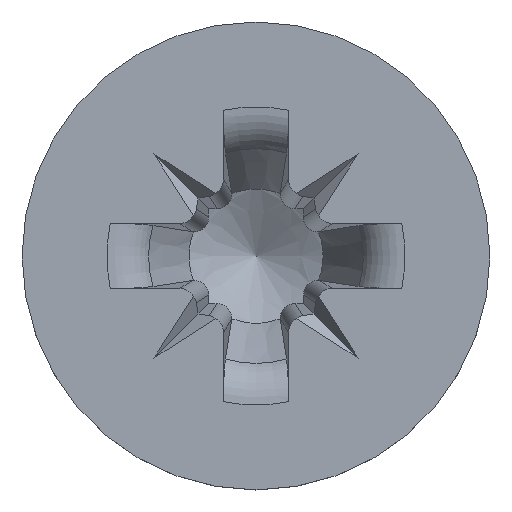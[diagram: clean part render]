
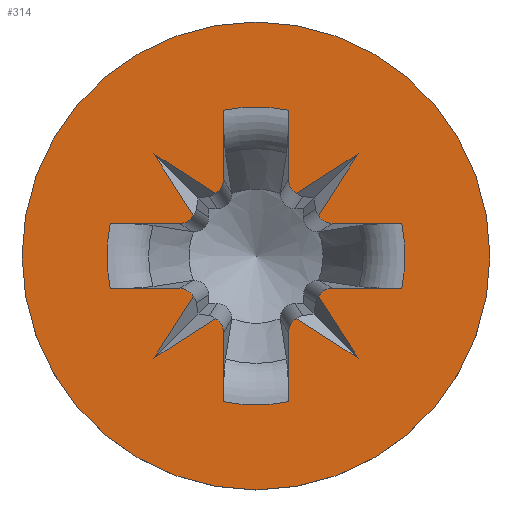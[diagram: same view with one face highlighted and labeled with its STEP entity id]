
A CAD part, top view. The second image highlights one B-rep face of the part: STEP entity #314.
In plain terms, the highlighted planar face has unit normal (0, 0, 1).
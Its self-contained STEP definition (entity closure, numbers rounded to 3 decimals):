
#84=PLANE('',#1531);
#110=ELLIPSE('',#1520,0.101,0.1);
#111=ELLIPSE('',#1521,0.101,0.1);
#112=ELLIPSE('',#1523,0.101,0.1);
#113=ELLIPSE('',#1524,0.101,0.1);
#114=ELLIPSE('',#1526,0.101,0.1);
#115=ELLIPSE('',#1527,0.101,0.1);
#116=ELLIPSE('',#1529,0.101,0.1);
#117=ELLIPSE('',#1530,0.101,0.1);
#126=LINE('',#2150,#209);
#127=LINE('',#2155,#210);
#128=LINE('',#2159,#211);
#129=LINE('',#2161,#212);
#130=LINE('',#2165,#213);
#131=LINE('',#2169,#214);
#132=LINE('',#2173,#215);
#133=LINE('',#2175,#216);
#134=LINE('',#2179,#217);
#135=LINE('',#2183,#218);
#136=LINE('',#2187,#219);
#137=LINE('',#2189,#220);
#138=LINE('',#2193,#221);
#139=LINE('',#2197,#222);
#140=LINE('',#2201,#223);
#141=LINE('',#2203,#224);
#209=VECTOR('',#1615,1.);
#210=VECTOR('',#1618,1.);
#211=VECTOR('',#1621,1.);
#212=VECTOR('',#1622,1.);
#213=VECTOR('',#1625,1.);
#214=VECTOR('',#1628,1.);
#215=VECTOR('',#1631,1.);
#216=VECTOR('',#1632,1.);
#217=VECTOR('',#1635,1.);
#218=VECTOR('',#1638,1.);
#219=VECTOR('',#1641,1.);
#220=VECTOR('',#1642,1.);
#221=VECTOR('',#1645,1.);
#222=VECTOR('',#1648,1.);
#223=VECTOR('',#1651,1.);
#224=VECTOR('',#1652,1.);
#300=FACE_BOUND('',#494,.T.);
#301=FACE_BOUND('',#495,.T.);
#314=ADVANCED_FACE('',(#300,#301),#84,.F.);
#494=EDGE_LOOP('',(#621));
#495=EDGE_LOOP('',(#622,#623,#624,#625,#626,#627,#628,#629,#630,#631,#632,
#633,#634,#635,#636,#637,#638,#639,#640,#641,#642,#643,#644,#645,#646,#647,
#648,#649));
#589=CIRCLE('',#1518,1.5);
#590=CIRCLE('',#1519,0.957);
#591=CIRCLE('',#1522,0.957);
#592=CIRCLE('',#1525,0.957);
#593=CIRCLE('',#1528,0.957);
#621=ORIENTED_EDGE('',*,*,#1203,.T.);
#622=ORIENTED_EDGE('',*,*,#1204,.F.);
#623=ORIENTED_EDGE('',*,*,#1205,.T.);
#624=ORIENTED_EDGE('',*,*,#1206,.F.);
#625=ORIENTED_EDGE('',*,*,#1207,.F.);
#626=ORIENTED_EDGE('',*,*,#1208,.T.);
#627=ORIENTED_EDGE('',*,*,#1209,.T.);
#628=ORIENTED_EDGE('',*,*,#1210,.F.);
#629=ORIENTED_EDGE('',*,*,#1211,.F.);
#630=ORIENTED_EDGE('',*,*,#1212,.T.);
#631=ORIENTED_EDGE('',*,*,#1213,.F.);
#632=ORIENTED_EDGE('',*,*,#1214,.F.);
#633=ORIENTED_EDGE('',*,*,#1215,.T.);
#634=ORIENTED_EDGE('',*,*,#1216,.T.);
#635=ORIENTED_EDGE('',*,*,#1217,.F.);
#636=ORIENTED_EDGE('',*,*,#1218,.F.);
#637=ORIENTED_EDGE('',*,*,#1219,.T.);
#638=ORIENTED_EDGE('',*,*,#1220,.F.);
#639=ORIENTED_EDGE('',*,*,#1221,.F.);
#640=ORIENTED_EDGE('',*,*,#1222,.T.);
#641=ORIENTED_EDGE('',*,*,#1223,.T.);
#642=ORIENTED_EDGE('',*,*,#1224,.F.);
#643=ORIENTED_EDGE('',*,*,#1225,.F.);
#644=ORIENTED_EDGE('',*,*,#1226,.T.);
#645=ORIENTED_EDGE('',*,*,#1227,.F.);
#646=ORIENTED_EDGE('',*,*,#1228,.F.);
#647=ORIENTED_EDGE('',*,*,#1229,.T.);
#648=ORIENTED_EDGE('',*,*,#1230,.T.);
#649=ORIENTED_EDGE('',*,*,#1231,.F.);
#1061=VERTEX_POINT('',#2149);
#1062=VERTEX_POINT('',#2151);
#1063=VERTEX_POINT('',#2152);
#1064=VERTEX_POINT('',#2154);
#1065=VERTEX_POINT('',#2156);
#1066=VERTEX_POINT('',#2158);
#1067=VERTEX_POINT('',#2160);
#1068=VERTEX_POINT('',#2162);
#1069=VERTEX_POINT('',#2164);
#1070=VERTEX_POINT('',#2166);
#1071=VERTEX_POINT('',#2168);
#1072=VERTEX_POINT('',#2170);
#1073=VERTEX_POINT('',#2172);
#1074=VERTEX_POINT('',#2174);
#1075=VERTEX_POINT('',#2176);
#1076=VERTEX_POINT('',#2178);
#1077=VERTEX_POINT('',#2180);
#1078=VERTEX_POINT('',#2182);
#1079=VERTEX_POINT('',#2184);
#1080=VERTEX_POINT('',#2186);
#1081=VERTEX_POINT('',#2188);
#1082=VERTEX_POINT('',#2190);
#1083=VERTEX_POINT('',#2192);
#1084=VERTEX_POINT('',#2194);
#1085=VERTEX_POINT('',#2196);
#1086=VERTEX_POINT('',#2198);
#1087=VERTEX_POINT('',#2200);
#1088=VERTEX_POINT('',#2202);
#1089=VERTEX_POINT('',#2204);
#1203=EDGE_CURVE('',#1061,#1061,#589,.T.);
#1204=EDGE_CURVE('',#1062,#1063,#126,.T.);
#1205=EDGE_CURVE('',#1062,#1064,#590,.T.);
#1206=EDGE_CURVE('',#1065,#1064,#127,.T.);
#1207=EDGE_CURVE('',#1066,#1065,#110,.T.);
#1208=EDGE_CURVE('',#1066,#1067,#128,.T.);
#1209=EDGE_CURVE('',#1067,#1068,#129,.T.);
#1210=EDGE_CURVE('',#1069,#1068,#111,.T.);
#1211=EDGE_CURVE('',#1070,#1069,#130,.T.);
#1212=EDGE_CURVE('',#1070,#1071,#591,.T.);
#1213=EDGE_CURVE('',#1072,#1071,#131,.T.);
#1214=EDGE_CURVE('',#1073,#1072,#112,.T.);
#1215=EDGE_CURVE('',#1073,#1074,#132,.T.);
#1216=EDGE_CURVE('',#1074,#1075,#133,.T.);
#1217=EDGE_CURVE('',#1076,#1075,#113,.T.);
#1218=EDGE_CURVE('',#1077,#1076,#134,.T.);
#1219=EDGE_CURVE('',#1077,#1078,#592,.T.);
#1220=EDGE_CURVE('',#1079,#1078,#135,.T.);
#1221=EDGE_CURVE('',#1080,#1079,#114,.T.);
#1222=EDGE_CURVE('',#1080,#1081,#136,.T.);
#1223=EDGE_CURVE('',#1081,#1082,#137,.T.);
#1224=EDGE_CURVE('',#1083,#1082,#115,.T.);
#1225=EDGE_CURVE('',#1084,#1083,#138,.T.);
#1226=EDGE_CURVE('',#1084,#1085,#593,.T.);
#1227=EDGE_CURVE('',#1086,#1085,#139,.T.);
#1228=EDGE_CURVE('',#1087,#1086,#116,.T.);
#1229=EDGE_CURVE('',#1087,#1088,#140,.T.);
#1230=EDGE_CURVE('',#1088,#1089,#141,.T.);
#1231=EDGE_CURVE('',#1063,#1089,#117,.T.);
#1518=AXIS2_PLACEMENT_3D('',#2148,#1613,#1614);
#1519=AXIS2_PLACEMENT_3D('',#2153,#1616,#1617);
#1520=AXIS2_PLACEMENT_3D('',#2157,#1619,#1620);
#1521=AXIS2_PLACEMENT_3D('',#2163,#1623,#1624);
#1522=AXIS2_PLACEMENT_3D('',#2167,#1626,#1627);
#1523=AXIS2_PLACEMENT_3D('',#2171,#1629,#1630);
#1524=AXIS2_PLACEMENT_3D('',#2177,#1633,#1634);
#1525=AXIS2_PLACEMENT_3D('',#2181,#1636,#1637);
#1526=AXIS2_PLACEMENT_3D('',#2185,#1639,#1640);
#1527=AXIS2_PLACEMENT_3D('',#2191,#1643,#1644);
#1528=AXIS2_PLACEMENT_3D('',#2195,#1646,#1647);
#1529=AXIS2_PLACEMENT_3D('',#2199,#1649,#1650);
#1530=AXIS2_PLACEMENT_3D('',#2205,#1653,#1654);
#1531=AXIS2_PLACEMENT_3D('',#2206,#1655,#1656);
#1613=DIRECTION('',(0.,0.,1.));
#1614=DIRECTION('',(1.,0.,0.));
#1615=DIRECTION('',(0.,1.,0.));
#1616=DIRECTION('',(0.,0.,-1.));
#1617=DIRECTION('',(-1.,0.,0.));
#1618=DIRECTION('',(0.,-1.,0.));
#1619=DIRECTION('',(0.,0.,-1.));
#1620=DIRECTION('',(-0.544,-0.839,0.));
#1621=DIRECTION('',(-0.843,-0.539,0.));
#1622=DIRECTION('',(0.539,0.843,0.));
#1623=DIRECTION('',(0.,0.,-1.));
#1624=DIRECTION('',(-0.839,-0.544,0.));
#1625=DIRECTION('',(1.,0.,0.));
#1626=DIRECTION('',(0.,0.,-1.));
#1627=DIRECTION('',(-1.,0.,0.));
#1628=DIRECTION('',(-1.,0.,0.));
#1629=DIRECTION('',(0.,0.,-1.));
#1630=DIRECTION('',(-0.839,0.544,0.));
#1631=DIRECTION('',(-0.539,0.843,0.));
#1632=DIRECTION('',(0.843,-0.539,0.));
#1633=DIRECTION('',(0.,0.,-1.));
#1634=DIRECTION('',(-0.544,0.839,0.));
#1635=DIRECTION('',(0.,-1.,0.));
#1636=DIRECTION('',(0.,0.,-1.));
#1637=DIRECTION('',(-1.,0.,0.));
#1638=DIRECTION('',(0.,1.,0.));
#1639=DIRECTION('',(0.,0.,-1.));
#1640=DIRECTION('',(0.544,0.839,0.));
#1641=DIRECTION('',(0.843,0.539,0.));
#1642=DIRECTION('',(-0.539,-0.843,0.));
#1643=DIRECTION('',(0.,0.,-1.));
#1644=DIRECTION('',(0.839,0.544,0.));
#1645=DIRECTION('',(-1.,0.,0.));
#1646=DIRECTION('',(0.,0.,-1.));
#1647=DIRECTION('',(-1.,0.,0.));
#1648=DIRECTION('',(1.,0.,0.));
#1649=DIRECTION('',(0.,0.,-1.));
#1650=DIRECTION('',(0.839,-0.544,0.));
#1651=DIRECTION('',(0.539,-0.843,0.));
#1652=DIRECTION('',(-0.843,0.539,0.));
#1653=DIRECTION('',(0.,0.,-1.));
#1654=DIRECTION('',(0.544,-0.839,0.));
#1655=DIRECTION('',(0.,0.,-1.));
#1656=DIRECTION('',(-1.,0.,0.));
#2148=CARTESIAN_POINT('',(0.,0.,1.17));
#2149=CARTESIAN_POINT('',(1.5,0.,1.17));
#2150=CARTESIAN_POINT('',(0.208,1.5,1.17));
#2151=CARTESIAN_POINT('',(0.208,-0.934,1.17));
#2152=CARTESIAN_POINT('',(0.208,-0.489,1.17));
#2153=CARTESIAN_POINT('',(0.,0.,1.17));
#2154=CARTESIAN_POINT('',(-0.208,-0.934,1.17));
#2155=CARTESIAN_POINT('',(-0.208,1.5,1.17));
#2156=CARTESIAN_POINT('',(-0.208,-0.489,1.17));
#2157=CARTESIAN_POINT('',(-0.309,-0.49,1.17));
#2158=CARTESIAN_POINT('',(-0.259,-0.402,1.17));
#2159=CARTESIAN_POINT('',(0.788,0.268,1.17));
#2160=CARTESIAN_POINT('',(-0.655,-0.655,1.17));
#2161=CARTESIAN_POINT('',(0.513,1.172,1.17));
#2162=CARTESIAN_POINT('',(-0.402,-0.259,1.17));
#2163=CARTESIAN_POINT('',(-0.49,-0.309,1.17));
#2164=CARTESIAN_POINT('',(-0.489,-0.208,1.17));
#2165=CARTESIAN_POINT('',(0.,-0.208,1.17));
#2166=CARTESIAN_POINT('',(-0.934,-0.208,1.17));
#2167=CARTESIAN_POINT('',(0.,0.,1.17));
#2168=CARTESIAN_POINT('',(-0.934,0.208,1.17));
#2169=CARTESIAN_POINT('',(0.,0.208,1.17));
#2170=CARTESIAN_POINT('',(-0.489,0.208,1.17));
#2171=CARTESIAN_POINT('',(-0.49,0.309,1.17));
#2172=CARTESIAN_POINT('',(-0.402,0.259,1.17));
#2173=CARTESIAN_POINT('',(-0.848,0.958,1.17));
#2174=CARTESIAN_POINT('',(-0.655,0.655,1.17));
#2175=CARTESIAN_POINT('',(-0.574,0.603,1.17));
#2176=CARTESIAN_POINT('',(-0.259,0.402,1.17));
#2177=CARTESIAN_POINT('',(-0.309,0.49,1.17));
#2178=CARTESIAN_POINT('',(-0.208,0.489,1.17));
#2179=CARTESIAN_POINT('',(-0.208,1.5,1.17));
#2180=CARTESIAN_POINT('',(-0.208,0.934,1.17));
#2181=CARTESIAN_POINT('',(0.,0.,1.17));
#2182=CARTESIAN_POINT('',(0.208,0.934,1.17));
#2183=CARTESIAN_POINT('',(0.208,1.5,1.17));
#2184=CARTESIAN_POINT('',(0.208,0.489,1.17));
#2185=CARTESIAN_POINT('',(0.309,0.49,1.17));
#2186=CARTESIAN_POINT('',(0.259,0.402,1.17));
#2187=CARTESIAN_POINT('',(0.574,0.603,1.17));
#2188=CARTESIAN_POINT('',(0.655,0.655,1.17));
#2189=CARTESIAN_POINT('',(0.848,0.958,1.17));
#2190=CARTESIAN_POINT('',(0.402,0.259,1.17));
#2191=CARTESIAN_POINT('',(0.49,0.309,1.17));
#2192=CARTESIAN_POINT('',(0.489,0.208,1.17));
#2193=CARTESIAN_POINT('',(0.,0.208,1.17));
#2194=CARTESIAN_POINT('',(0.934,0.208,1.17));
#2195=CARTESIAN_POINT('',(0.,0.,1.17));
#2196=CARTESIAN_POINT('',(0.934,-0.208,1.17));
#2197=CARTESIAN_POINT('',(0.,-0.208,1.17));
#2198=CARTESIAN_POINT('',(0.489,-0.208,1.17));
#2199=CARTESIAN_POINT('',(0.49,-0.309,1.17));
#2200=CARTESIAN_POINT('',(0.402,-0.259,1.17));
#2201=CARTESIAN_POINT('',(-0.513,1.172,1.17));
#2202=CARTESIAN_POINT('',(0.655,-0.655,1.17));
#2203=CARTESIAN_POINT('',(-0.788,0.268,1.17));
#2204=CARTESIAN_POINT('',(0.259,-0.402,1.17));
#2205=CARTESIAN_POINT('',(0.309,-0.49,1.17));
#2206=CARTESIAN_POINT('',(0.,1.5,1.17));
